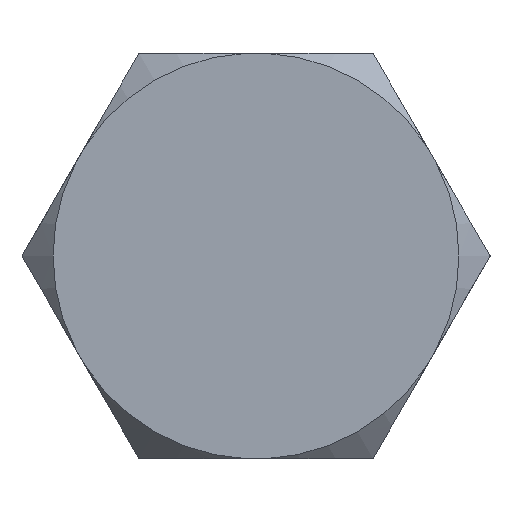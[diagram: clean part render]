
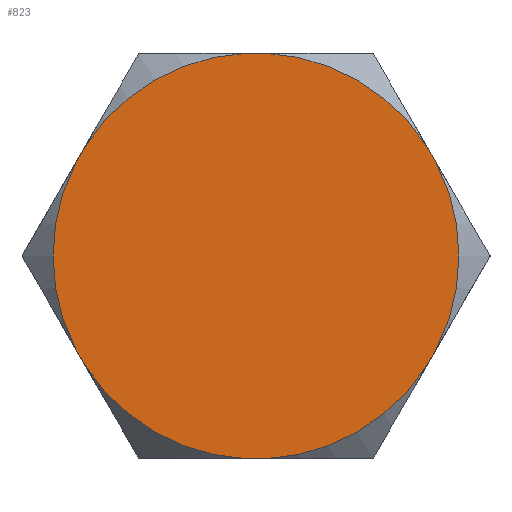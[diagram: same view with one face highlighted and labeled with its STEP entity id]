
A CAD part, front view. The second image highlights one B-rep face of the part: STEP entity #823.
In plain terms, the highlighted planar face has unit normal (0, -1, 0).
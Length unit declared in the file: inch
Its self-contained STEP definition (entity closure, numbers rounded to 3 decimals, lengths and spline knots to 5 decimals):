
#51=PLANE('',#934);
#92=LINE('',#1408,#127);
#95=LINE('',#1430,#130);
#98=LINE('',#1452,#133);
#101=LINE('',#1474,#136);
#104=LINE('',#1496,#139);
#107=LINE('',#1518,#142);
#127=VECTOR('',#1090,0.3937);
#130=VECTOR('',#1095,0.3937);
#133=VECTOR('',#1100,0.3937);
#136=VECTOR('',#1105,0.3937);
#139=VECTOR('',#1110,0.3937);
#142=VECTOR('',#1115,0.3937);
#181=FACE_OUTER_BOUND('',#231,.T.);
#231=EDGE_LOOP('',(#729,#730,#731,#732,#733,#734,#735,#736,#737,#738,#739,
#740));
#288=CIRCLE('',#935,0.438);
#289=CIRCLE('',#936,0.438);
#290=CIRCLE('',#937,0.438);
#291=CIRCLE('',#938,0.438);
#292=CIRCLE('',#939,0.438);
#293=CIRCLE('',#940,0.438);
#354=VERTEX_POINT('',#1403);
#355=VERTEX_POINT('',#1407);
#360=VERTEX_POINT('',#1425);
#361=VERTEX_POINT('',#1429);
#366=VERTEX_POINT('',#1447);
#367=VERTEX_POINT('',#1451);
#372=VERTEX_POINT('',#1469);
#373=VERTEX_POINT('',#1473);
#378=VERTEX_POINT('',#1491);
#379=VERTEX_POINT('',#1495);
#384=VERTEX_POINT('',#1513);
#385=VERTEX_POINT('',#1517);
#457=EDGE_CURVE('',#355,#354,#92,.T.);
#464=EDGE_CURVE('',#361,#360,#95,.T.);
#471=EDGE_CURVE('',#367,#366,#98,.T.);
#478=EDGE_CURVE('',#373,#372,#101,.T.);
#485=EDGE_CURVE('',#379,#378,#104,.T.);
#492=EDGE_CURVE('',#385,#384,#107,.T.);
#507=EDGE_CURVE('',#385,#354,#288,.T.);
#508=EDGE_CURVE('',#379,#384,#289,.T.);
#509=EDGE_CURVE('',#373,#378,#290,.T.);
#510=EDGE_CURVE('',#367,#372,#291,.T.);
#511=EDGE_CURVE('',#361,#366,#292,.T.);
#512=EDGE_CURVE('',#355,#360,#293,.T.);
#729=ORIENTED_EDGE('',*,*,#457,.T.);
#730=ORIENTED_EDGE('',*,*,#507,.F.);
#731=ORIENTED_EDGE('',*,*,#492,.T.);
#732=ORIENTED_EDGE('',*,*,#508,.F.);
#733=ORIENTED_EDGE('',*,*,#485,.T.);
#734=ORIENTED_EDGE('',*,*,#509,.F.);
#735=ORIENTED_EDGE('',*,*,#478,.T.);
#736=ORIENTED_EDGE('',*,*,#510,.F.);
#737=ORIENTED_EDGE('',*,*,#471,.T.);
#738=ORIENTED_EDGE('',*,*,#511,.F.);
#739=ORIENTED_EDGE('',*,*,#464,.T.);
#740=ORIENTED_EDGE('',*,*,#512,.F.);
#823=ADVANCED_FACE('',(#181),#51,.T.);
#934=AXIS2_PLACEMENT_3D('',#1548,#1165,#1166);
#935=AXIS2_PLACEMENT_3D('',#1549,#1167,#1168);
#936=AXIS2_PLACEMENT_3D('',#1550,#1169,#1170);
#937=AXIS2_PLACEMENT_3D('',#1551,#1171,#1172);
#938=AXIS2_PLACEMENT_3D('',#1552,#1173,#1174);
#939=AXIS2_PLACEMENT_3D('',#1553,#1175,#1176);
#940=AXIS2_PLACEMENT_3D('',#1554,#1177,#1178);
#1090=DIRECTION('',(0.5,0.,-0.866));
#1095=DIRECTION('',(-0.5,0.,-0.866));
#1100=DIRECTION('',(-1.,0.,0.));
#1105=DIRECTION('',(-0.5,0.,0.866));
#1110=DIRECTION('',(0.5,0.,0.866));
#1115=DIRECTION('',(1.,0.,0.));
#1165=DIRECTION('center_axis',(0.,-1.,0.));
#1166=DIRECTION('ref_axis',(0.,0.,-1.));
#1167=DIRECTION('center_axis',(0.,1.,0.));
#1168=DIRECTION('ref_axis',(0.,0.,1.));
#1169=DIRECTION('center_axis',(0.,1.,0.));
#1170=DIRECTION('ref_axis',(0.,0.,1.));
#1171=DIRECTION('center_axis',(0.,1.,0.));
#1172=DIRECTION('ref_axis',(0.,0.,1.));
#1173=DIRECTION('center_axis',(0.,1.,0.));
#1174=DIRECTION('ref_axis',(0.,0.,1.));
#1175=DIRECTION('center_axis',(0.,1.,0.));
#1176=DIRECTION('ref_axis',(0.,0.,1.));
#1177=DIRECTION('center_axis',(0.,1.,0.));
#1178=DIRECTION('ref_axis',(0.,0.,1.));
#1403=CARTESIAN_POINT('',(-0.36842,0.,-0.23687));
#1407=CARTESIAN_POINT('',(-0.38935,0.,-0.20063));
#1408=CARTESIAN_POINT('',(-0.44203,0.,-0.10938));
#1425=CARTESIAN_POINT('',(-0.38935,0.,0.20063));
#1429=CARTESIAN_POINT('',(-0.36842,0.,0.23687));
#1430=CARTESIAN_POINT('',(-0.31574,0.,0.32813));
#1447=CARTESIAN_POINT('',(-0.02092,0.,0.4375));
#1451=CARTESIAN_POINT('',(0.02092,0.,0.4375));
#1452=CARTESIAN_POINT('',(0.1263,0.,0.4375));
#1469=CARTESIAN_POINT('',(0.36842,0.,0.23687));
#1473=CARTESIAN_POINT('',(0.38935,0.,0.20063));
#1474=CARTESIAN_POINT('',(0.44203,0.,0.10938));
#1491=CARTESIAN_POINT('',(0.38935,0.,-0.20063));
#1495=CARTESIAN_POINT('',(0.36842,0.,-0.23687));
#1496=CARTESIAN_POINT('',(0.31574,0.,-0.32813));
#1513=CARTESIAN_POINT('',(0.02092,0.,-0.4375));
#1517=CARTESIAN_POINT('',(-0.02092,0.,-0.4375));
#1518=CARTESIAN_POINT('',(-0.1263,0.,-0.4375));
#1548=CARTESIAN_POINT('Origin',(0.,0.,0.));
#1549=CARTESIAN_POINT('Origin',(0.,0.,0.));
#1550=CARTESIAN_POINT('Origin',(0.,0.,0.));
#1551=CARTESIAN_POINT('Origin',(0.,0.,0.));
#1552=CARTESIAN_POINT('Origin',(0.,0.,0.));
#1553=CARTESIAN_POINT('Origin',(0.,0.,0.));
#1554=CARTESIAN_POINT('Origin',(0.,0.,0.));
